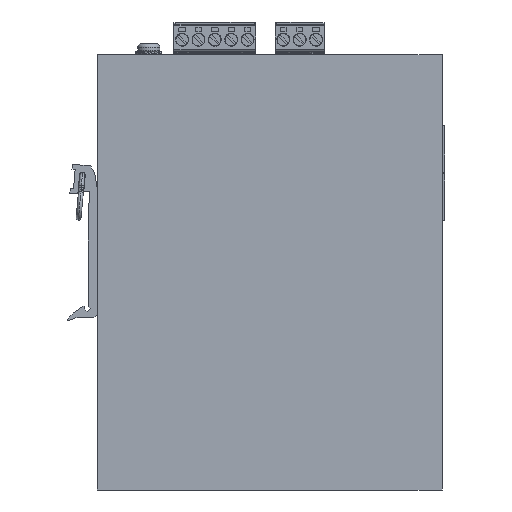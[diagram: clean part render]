
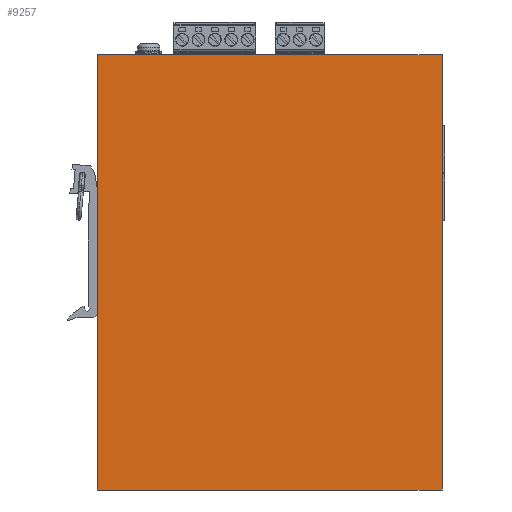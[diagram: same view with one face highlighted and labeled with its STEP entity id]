
A CAD part, left-side view. The second image highlights one B-rep face of the part: STEP entity #9257.
In plain terms, the highlighted planar face has unit normal (-1, 0, 0).
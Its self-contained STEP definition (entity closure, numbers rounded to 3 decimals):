
#606=CARTESIAN_POINT('',(-0.,-0.,135.));
#607=VERTEX_POINT('',#606);
#624=CARTESIAN_POINT('',(-0.,107.,135.));
#625=VERTEX_POINT('',#624);
#632=CARTESIAN_POINT('',(-0.,107.,135.));
#633=DIRECTION('',(0.,-1.,-0.));
#634=VECTOR('',#633,107.);
#635=LINE('',#632,#634);
#636=EDGE_CURVE('',#625,#607,#635,.T.);
#5439=CARTESIAN_POINT('',(-0.,107.,0.));
#5440=VERTEX_POINT('',#5439);
#5447=CARTESIAN_POINT('',(-0.,107.,0.));
#5448=DIRECTION('',(-0.,0.,1.));
#5449=VECTOR('',#5448,135.);
#5450=LINE('',#5447,#5449);
#5451=EDGE_CURVE('',#5440,#625,#5450,.T.);
#9158=CARTESIAN_POINT('',(0.,0.,0.));
#9159=VERTEX_POINT('',#9158);
#9160=CARTESIAN_POINT('',(0.,0.,0.));
#9161=DIRECTION('',(-0.,-0.,1.));
#9162=VECTOR('',#9161,135.);
#9163=LINE('',#9160,#9162);
#9164=EDGE_CURVE('',#9159,#607,#9163,.T.);
#9234=CARTESIAN_POINT('',(-0.,107.,0.));
#9235=DIRECTION('',(0.,-1.,-0.));
#9236=VECTOR('',#9235,107.);
#9237=LINE('',#9234,#9236);
#9238=EDGE_CURVE('',#5440,#9159,#9237,.T.);
#9246=CARTESIAN_POINT('',(-0.,107.002,0.));
#9247=DIRECTION('',(1.,0.,0.));
#9248=DIRECTION('',(-0.,0.,1.));
#9249=AXIS2_PLACEMENT_3D('',#9246,#9247,#9248);
#9250=PLANE('',#9249);
#9251=ORIENTED_EDGE('',*,*,#9164,.T.);
#9252=ORIENTED_EDGE('',*,*,#636,.F.);
#9253=ORIENTED_EDGE('',*,*,#5451,.F.);
#9254=ORIENTED_EDGE('',*,*,#9238,.T.);
#9255=EDGE_LOOP('',(#9251,#9252,#9253,#9254));
#9256=FACE_BOUND('',#9255,.T.);
#9257=ADVANCED_FACE('',(#9256),#9250,.F.);
